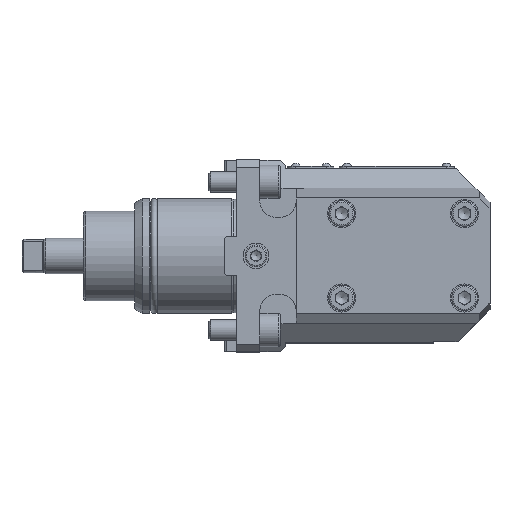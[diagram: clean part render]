
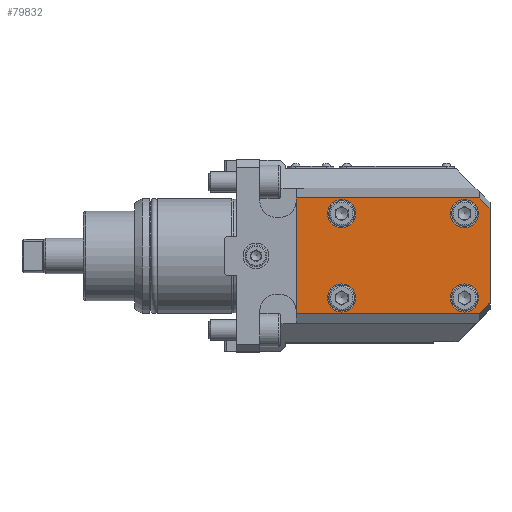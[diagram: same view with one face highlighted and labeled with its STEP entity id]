
A CAD part, top view. The second image highlights one B-rep face of the part: STEP entity #79832.
In plain terms, the highlighted planar face has unit normal (0, 0, 1) as drawn and (-1, 0, 0) by its records, which use the part's own axes.
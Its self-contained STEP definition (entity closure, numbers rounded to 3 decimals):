
#26689=VECTOR('',#41714,1.);
#26697=VECTOR('',#41724,1.);
#26730=VECTOR('',#41793,1.);
#26733=VECTOR('',#41798,1.);
#26734=VECTOR('',#41799,1.);
#26735=VECTOR('',#41800,1.);
#27959=LINE('',#46401,#26689);
#27967=LINE('',#46415,#26697);
#28000=LINE('',#46500,#26730);
#28003=LINE('',#46506,#26733);
#28004=LINE('',#46508,#26734);
#28005=LINE('',#46509,#26735);
#29140=PLANE('',#77981);
#30190=ORIENTED_EDGE('',*,*,#36629,.F.);
#30191=ORIENTED_EDGE('',*,*,#36632,.F.);
#30192=ORIENTED_EDGE('',*,*,#36633,.F.);
#30193=ORIENTED_EDGE('',*,*,#36634,.T.);
#30194=ORIENTED_EDGE('',*,*,#36578,.F.);
#30195=ORIENTED_EDGE('',*,*,#36586,.T.);
#30196=ORIENTED_EDGE('',*,*,#36635,.F.);
#30197=ORIENTED_EDGE('',*,*,#36636,.F.);
#30198=ORIENTED_EDGE('',*,*,#36637,.F.);
#30199=ORIENTED_EDGE('',*,*,#36638,.F.);
#34214=CIRCLE('',#77982,5.5);
#34215=CIRCLE('',#77983,5.5);
#34216=CIRCLE('',#77984,5.5);
#34217=CIRCLE('',#77985,5.5);
#34965=VERTEX_POINT('',#46397);
#34967=VERTEX_POINT('',#46400);
#34972=VERTEX_POINT('',#46413);
#35006=VERTEX_POINT('',#46499);
#35008=VERTEX_POINT('',#46505);
#35009=VERTEX_POINT('',#46507);
#35010=VERTEX_POINT('',#46510);
#35011=VERTEX_POINT('',#46512);
#35012=VERTEX_POINT('',#46514);
#35013=VERTEX_POINT('',#46516);
#36578=EDGE_CURVE('',#34965,#34967,#27959,.T.);
#36586=EDGE_CURVE('',#34965,#34972,#27967,.T.);
#36629=EDGE_CURVE('',#35006,#34972,#28000,.T.);
#36632=EDGE_CURVE('',#35008,#35006,#28003,.T.);
#36633=EDGE_CURVE('',#35009,#35008,#28004,.T.);
#36634=EDGE_CURVE('',#35009,#34967,#28005,.T.);
#36635=EDGE_CURVE('',#35010,#35010,#34214,.T.);
#36636=EDGE_CURVE('',#35011,#35011,#34215,.T.);
#36637=EDGE_CURVE('',#35012,#35012,#34216,.T.);
#36638=EDGE_CURVE('',#35013,#35013,#34217,.T.);
#38692=EDGE_LOOP('',(#30190,#30191,#30192,#30193,#30194,#30195));
#38693=EDGE_LOOP('',(#30196));
#38694=EDGE_LOOP('',(#30197));
#38695=EDGE_LOOP('',(#30198));
#38696=EDGE_LOOP('',(#30199));
#40038=FACE_BOUND('',#38692,.T.);
#40039=FACE_BOUND('',#38693,.T.);
#40040=FACE_BOUND('',#38694,.T.);
#40041=FACE_BOUND('',#38695,.T.);
#40042=FACE_BOUND('',#38696,.T.);
#41714=DIRECTION('',(0.,-36.895,0.));
#41724=DIRECTION('',(0.,4.141,-4.));
#41793=DIRECTION('',(0.,0.,71.8));
#41796=DIRECTION('',(-1.,0.,0.));
#41797=DIRECTION('',(0.,1.,0.));
#41798=DIRECTION('',(0.,45.177,0.));
#41799=DIRECTION('',(0.,0.,-71.8));
#41800=DIRECTION('',(0.,4.141,4.));
#41801=DIRECTION('',(-1.,0.,0.));
#41802=DIRECTION('',(0.,5.5,0.));
#41803=DIRECTION('',(-1.,0.,0.));
#41804=DIRECTION('',(0.,5.5,0.));
#41805=DIRECTION('',(-1.,0.,0.));
#41806=DIRECTION('',(0.,5.5,0.));
#41807=DIRECTION('',(-1.,0.,0.));
#41808=DIRECTION('',(0.,5.5,0.));
#46397=CARTESIAN_POINT('',(-113.,858.761,424.113));
#46400=CARTESIAN_POINT('',(-113.,821.866,424.113));
#46401=CARTESIAN_POINT('',(-113.,858.761,424.113));
#46413=CARTESIAN_POINT('',(-113.,862.902,420.113));
#46415=CARTESIAN_POINT('',(-113.,858.761,424.113));
#46499=CARTESIAN_POINT('',(-113.,862.902,348.313));
#46500=CARTESIAN_POINT('',(-113.,862.902,348.313));
#46504=CARTESIAN_POINT('',(-113.,815.314,424.113));
#46505=CARTESIAN_POINT('',(-113.,817.725,348.313));
#46506=CARTESIAN_POINT('',(-113.,817.725,348.313));
#46507=CARTESIAN_POINT('',(-113.,817.725,420.113));
#46508=CARTESIAN_POINT('',(-113.,817.725,420.113));
#46509=CARTESIAN_POINT('',(-113.,817.725,420.113));
#46510=CARTESIAN_POINT('',(-113.,829.314,414.113));
#46511=CARTESIAN_POINT('',(-113.,823.814,414.113));
#46512=CARTESIAN_POINT('',(-113.,862.314,366.113));
#46513=CARTESIAN_POINT('',(-113.,856.814,366.113));
#46514=CARTESIAN_POINT('',(-113.,829.314,366.113));
#46515=CARTESIAN_POINT('',(-113.,823.814,366.113));
#46516=CARTESIAN_POINT('',(-113.,862.314,414.113));
#46517=CARTESIAN_POINT('',(-113.,856.814,414.113));
#77981=AXIS2_PLACEMENT_3D('',#46504,#41796,#41797);
#77982=AXIS2_PLACEMENT_3D('',#46511,#41801,#41802);
#77983=AXIS2_PLACEMENT_3D('',#46513,#41803,#41804);
#77984=AXIS2_PLACEMENT_3D('',#46515,#41805,#41806);
#77985=AXIS2_PLACEMENT_3D('',#46517,#41807,#41808);
#79832=ADVANCED_FACE('',(#40038,#40039,#40040,#40041,#40042),#29140,.T.);
